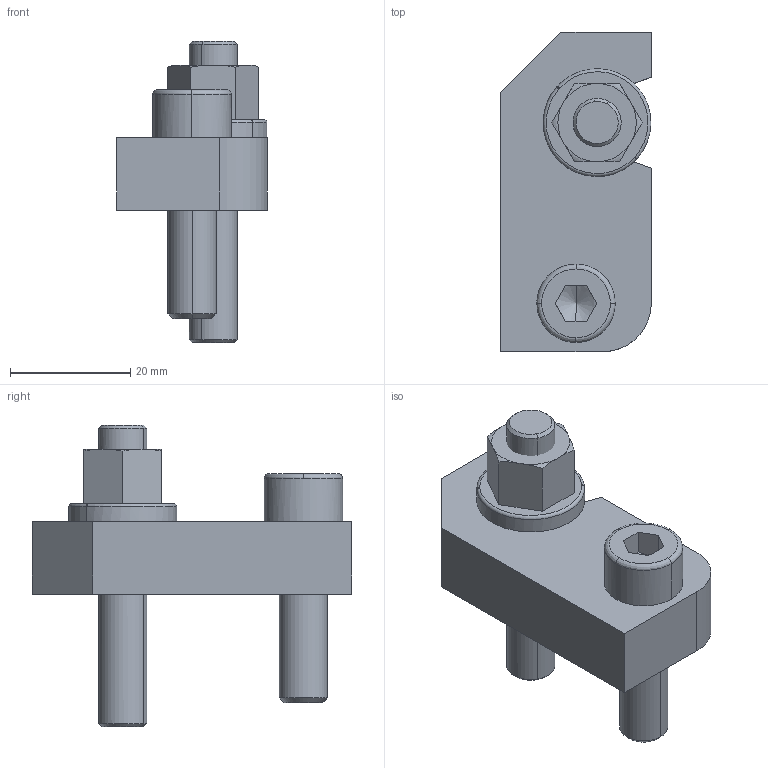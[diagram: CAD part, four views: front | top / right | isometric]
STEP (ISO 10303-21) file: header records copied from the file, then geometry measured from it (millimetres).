
FILE_DESCRIPTION(('CATIA V5 STEP Exchange'),'2;1');
FILE_NAME('\\192.168.198.2\Mechanus\KONSTRUKCE-MONTAZ\PRODUKTY MECHANUS\MS006-SERIZOVACI PRVKY\ADMINISTRATIVA\podklady\klapacky modely\Mechanus--vyklopna podlozka--532510 sada.stp','2024-03-13T08:12:45+00:00',('none'),('none'),'CATIA Version 5 Release 19 GA (IN-10)','CATIA V5 STEP AP203','none');
FILE_SCHEMA(('CONFIG_CONTROL_DESIGN'));
Length unit declared in the file: millimetre
Products named in the file (1): Mechanus--vyklopna podlozka--532510 sada
Assembly tree (4 placements, depth 2):
  Mechanus--vyklopna podlozka--532510 sada
    #56
    #795
    #1377
    #1962
Bounding box: 25 x 53 x 50 mm (x, y, z)
Volume: 19026.5 mm3; surface area: 8472 mm2
Topology: 4 solids, 4 shells, 87 faces, 204 edges, 131 vertices
Faces by surface type: plane 37, cylinder 25, cone 12, torus 9, bspline 4
Entity records: 2820 total; most frequent: CARTESIAN_POINT 869, ORIENTED_EDGE 404, DIRECTION 314, EDGE_CURVE 202, AXIS2_PLACEMENT_3D 138, VERTEX_POINT 131, EDGE_LOOP 99, VECTOR 96
